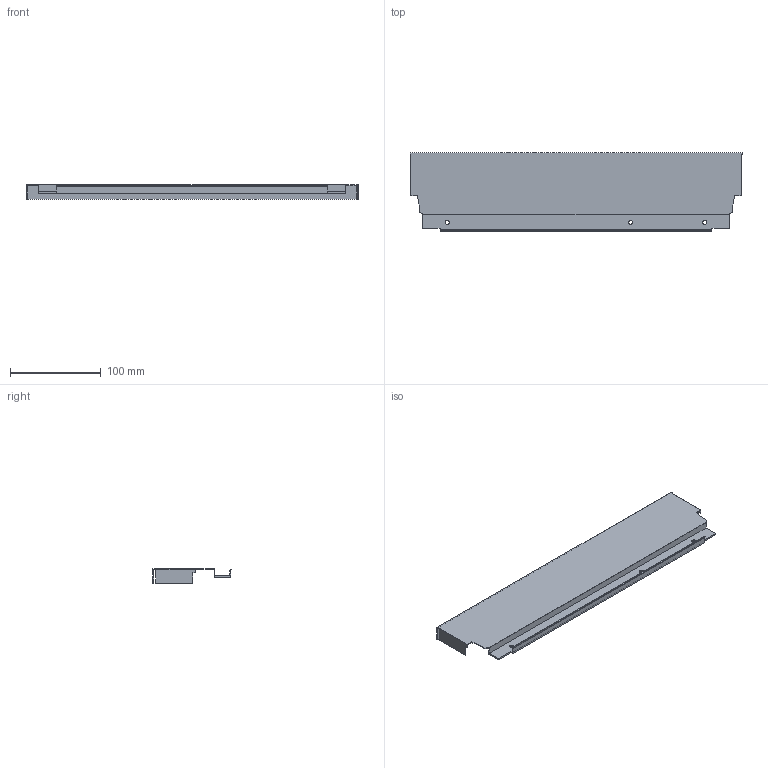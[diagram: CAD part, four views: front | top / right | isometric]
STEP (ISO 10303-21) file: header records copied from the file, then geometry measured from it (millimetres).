
FILE_DESCRIPTION (( 'STEP AP214' ), '1' );
FILE_NAME ('_DWD_XP Stahlrückwand_H86_KAB450_S18.step', '2010-07-08T12:10:19', ( 'grass' ), ( '' ), 'SwSTEP 2.0', 'SolidWorks 2010', '' );
FILE_SCHEMA (( 'AUTOMOTIVE_DESIGN' ));
Length unit declared in the file: millimetre
Products named in the file (1): _DWD_XP Stahlrückwand_H86_KAB450_S18
Bounding box: 365 x 85.79 x 16 mm (x, y, z)
Volume: 38542.7 mm3; surface area: 84454.9 mm2
Topology: 1 solids, 1 shells, 50 faces, 144 edges, 96 vertices
Faces by surface type: plane 44, cylinder 6
Entity records: 1666 total; most frequent: CARTESIAN_POINT 291, ORIENTED_EDGE 288, DIRECTION 258, EDGE_CURVE 144, LINE 132, VECTOR 132, VERTEX_POINT 96, AXIS2_PLACEMENT_3D 63
